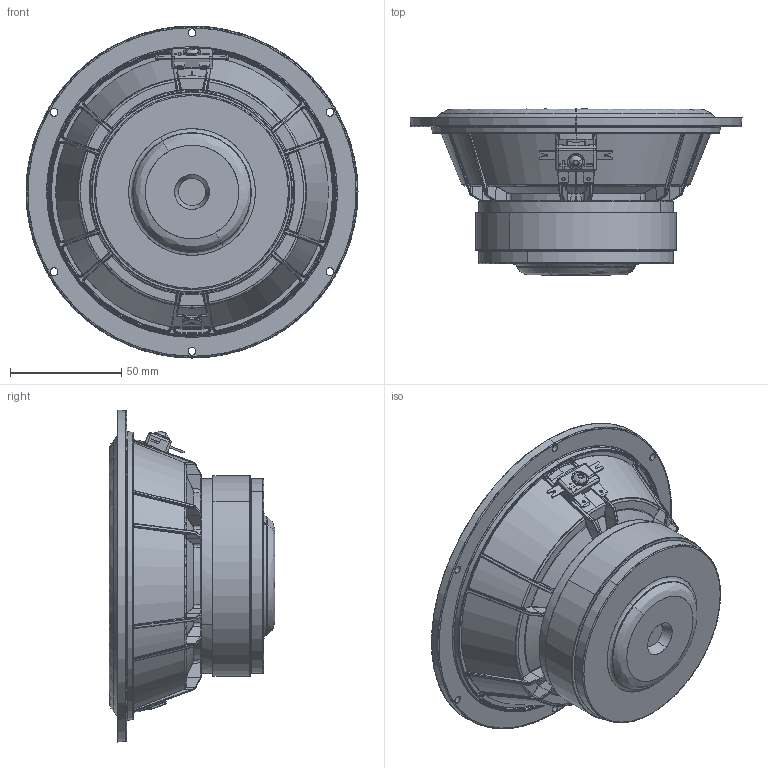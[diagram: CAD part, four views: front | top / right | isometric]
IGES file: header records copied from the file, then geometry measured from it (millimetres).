
Start section: SolidWorks IGES file using analytic representation for surfaces
Global section: file name: W:\TT\WEB 3D enheder\WEB 15W_8534T00\15W-8534T00.IGS; native system: SolidWorks 2019; preprocessor: SolidWorks 2019; author: mhn; date: 201020.115737; units: millimetre
Bounding box: 149 x 74.39 x 149 mm (x, y, z)
Surface area: 63976.5 mm2 (no closed solid volume)
Topology: 0 solids, 0 shells, 1352 faces, 11177 edges, 11159 vertices
Faces by surface type: bspline 992, revolution 360
